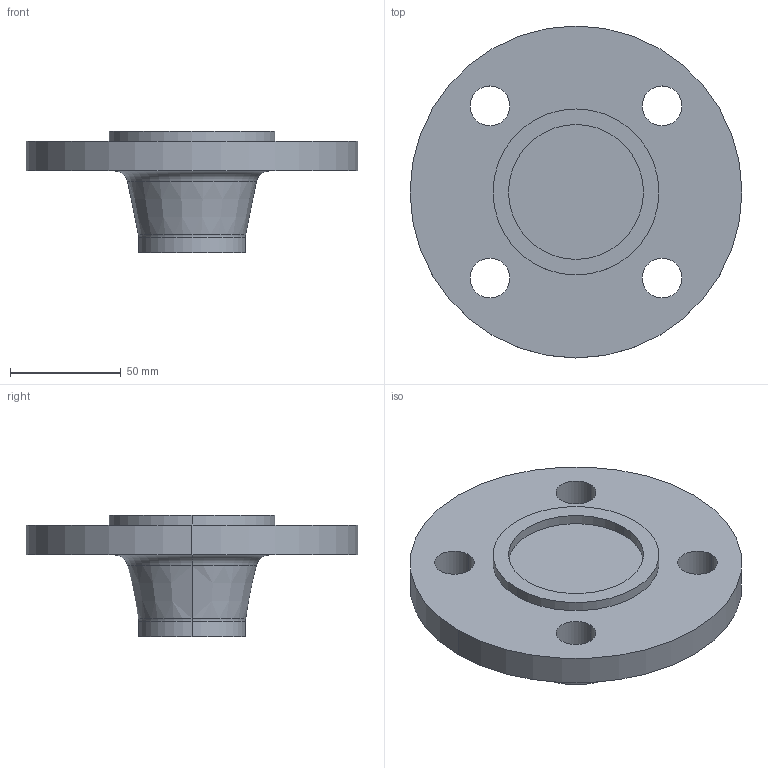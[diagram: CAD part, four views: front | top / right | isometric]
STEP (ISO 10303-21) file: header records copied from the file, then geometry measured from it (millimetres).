
FILE_DESCRIPTION (( 'STEP AP214' ), '1' );
FILE_NAME ('PN40 DN40 Type 21(ii) - Type C Face.STEP', '2018-12-30T01:29:06', ( '' ), ( '' ), 'SwSTEP 2.0', 'SolidWorks 2019', '' );
FILE_SCHEMA (( 'AUTOMOTIVE_DESIGN' ));
Length unit declared in the file: millimetre
Products named in the file (1): PN40 DN40 Type 21(ii) - Type C Face
Bounding box: 150 x 150 x 55 mm (x, y, z)
Volume: 314613.6 mm3; surface area: 49607.8 mm2
Topology: 1 solids, 1 shells, 27 faces, 60 edges, 38 vertices
Faces by surface type: cylinder 16, plane 5, torus 4, cone 2
Entity records: 818 total; most frequent: DIRECTION 158, CARTESIAN_POINT 126, ORIENTED_EDGE 120, AXIS2_PLACEMENT_3D 70, EDGE_CURVE 60, CIRCLE 42, EDGE_LOOP 38, VERTEX_POINT 38
